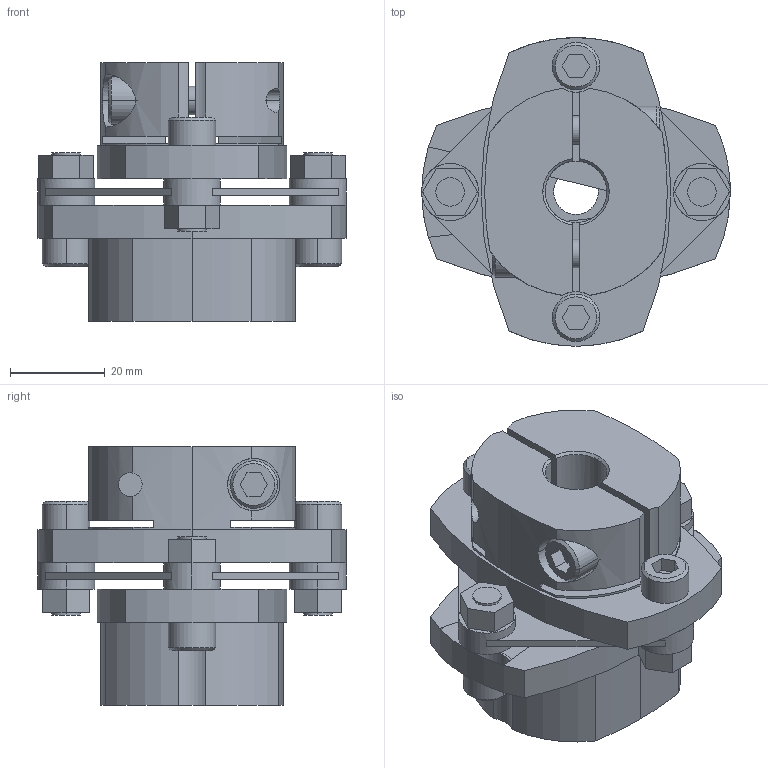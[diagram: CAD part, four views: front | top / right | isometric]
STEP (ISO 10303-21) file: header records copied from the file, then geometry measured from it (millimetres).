
FILE_DESCRIPTION((''),'2;1');
FILE_NAME('LCS-65M-11L亊13B.stp','2015-10-28T03:03:53',(''),(''),'AutoCAD STEP 2000i','AutoCAD 2000i',', , ');
FILE_SCHEMA(('CONFIG_CONTROL_DESIGN'));
Length unit declared in the file: millimetre
Products named in the file (6): LCS-65M-11L×14B; 忣兜1; LC65M-L011; LC65-B014-1; LC65-B014; LCS65-ITA
Assembly tree (5 placements, depth 2):
  LCS-65M-11L×14B
    忣兜1
    LC65M-L011
    LC65-B014-1
    LC65-B014
    LCS65-ITA
Bounding box: 65 x 65 x 54.5 mm (x, y, z)
Volume: 79559.7 mm3; surface area: 26959.1 mm2
Topology: 1 solids, 1 shells, 228 faces, 602 edges, 394 vertices
Faces by surface type: plane 115, cylinder 92, cone 21
Entity records: 7591 total; most frequent: CARTESIAN_POINT 1570, DIRECTION 1286, ORIENTED_EDGE 1204, EDGE_CURVE 602, AXIS2_PLACEMENT_3D 472, VERTEX_POINT 394, VECTOR 342, LINE 342
